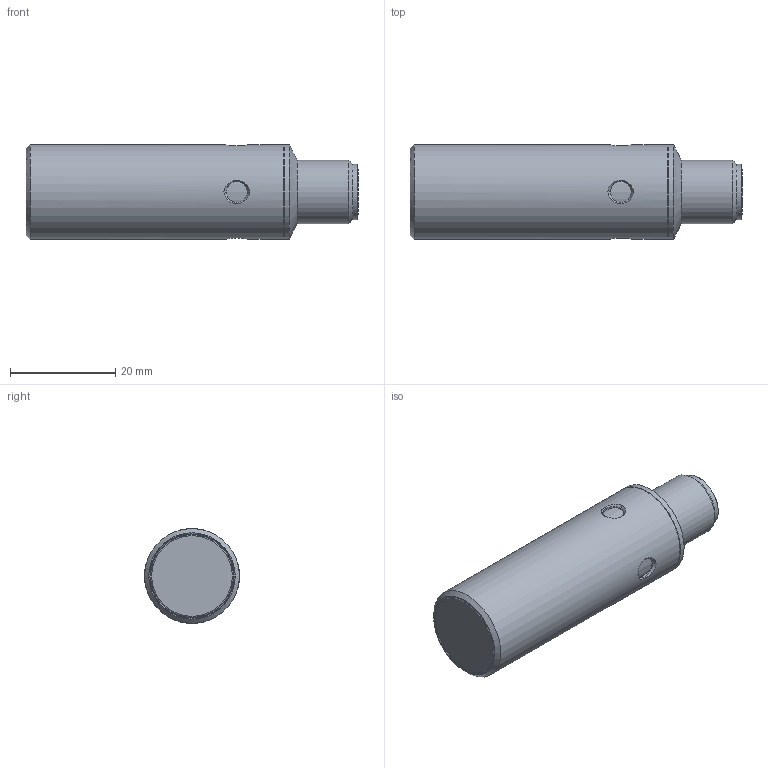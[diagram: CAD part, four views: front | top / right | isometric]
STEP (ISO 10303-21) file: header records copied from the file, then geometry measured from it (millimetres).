
FILE_DESCRIPTION(/* description */ (''),/* implementation_level */ '2;1');
FILE_NAME(/* name */ 'Z:\PG_031_033_365_369\031\progetti\_assemblies 3D\Contorno semplificato\ICS18\ics18_flush_asm.stp',/* time_stamp */ '2015-05-07T15:27:58+02:00',/* author */ ('ddecol'),/* organization */ (''),/* preprocessor_version */ 'ST-DEVELOPER v15.6',/* originating_system */ 'Autodesk Inventor 2015',/* authorisation */ '');
FILE_SCHEMA (('AUTOMOTIVE_DESIGN { 1 0 10303 214 3 1 1 }'));
Length unit declared in the file: millimetre
Products named in the file (1): ics18_flush_asm
Bounding box: 63 x 18 x 18 mm (x, y, z)
Surface area: 4457.7 mm2 (no closed solid volume)
Topology: 0 solids, 6 shells, 53 faces, 135 edges, 91 vertices
Faces by surface type: cylinder 16, bspline 16, plane 12, cone 8, torus 1
Full cylindrical faces by diameter (mm): 1.5 x4, 4 x4, 8.5 x1, 10.5 x1, 12 x1, 16.45 x1, 18 x2
Entity records: 3180 total; most frequent: CARTESIAN_POINT 2022, DIRECTION 190, ORIENTED_EDGE 187, EDGE_CURVE 105, EDGE_LOOP 88, VERTEX_POINT 85, AXIS2_PLACEMENT_3D 83, FACE_OUTER_BOUND 53
